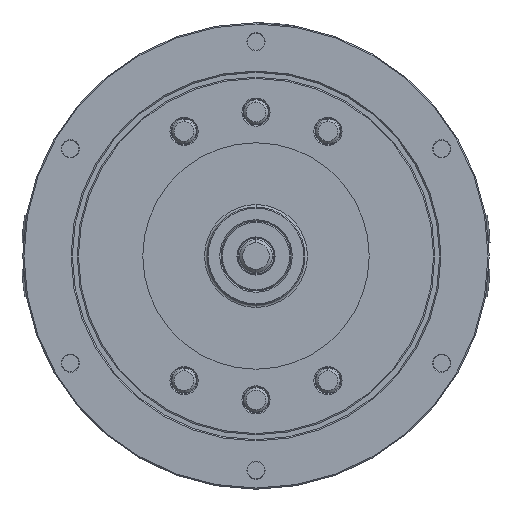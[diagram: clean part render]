
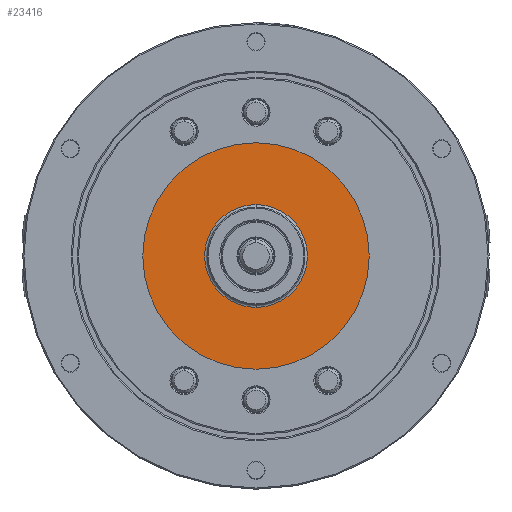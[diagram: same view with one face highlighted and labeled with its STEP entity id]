
A CAD part, left-side view. The second image highlights one B-rep face of the part: STEP entity #23416.
In plain terms, the highlighted planar face has unit normal (-1, 0, 0).
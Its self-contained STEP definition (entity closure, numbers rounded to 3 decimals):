
#1764 = ORIENTED_EDGE ( 'NONE', *, *, #11835, .F. ) ;
#1838 = AXIS2_PLACEMENT_3D ( 'NONE', #22253, #22196, #21883 ) ;
#2781 = ORIENTED_EDGE ( 'NONE', *, *, #10824, .T. ) ;
#5512 = VERTEX_POINT ( 'NONE', #23055 ) ;
#5815 = FACE_OUTER_BOUND ( 'NONE', #24104, .T. ) ;
#6533 = FACE_BOUND ( 'NONE', #22319, .T. ) ;
#7807 = VERTEX_POINT ( 'NONE', #40642 ) ;
#9026 = AXIS2_PLACEMENT_3D ( 'NONE', #23558, #23550, #23513 ) ;
#10013 = AXIS2_PLACEMENT_3D ( 'NONE', #33344, #33314, #33306 ) ;
#10824 = EDGE_CURVE ( 'NONE', #19423, #27439, #28293, .T. ) ;
#10987 = CIRCLE ( 'NONE', #15774, 92.5 ) ;
#11835 = EDGE_CURVE ( 'NONE', #5512, #7807, #20953, .T. ) ;
#12749 = AXIS2_PLACEMENT_3D ( 'NONE', #31917, #26599, #26760 ) ;
#15416 = ORIENTED_EDGE ( 'NONE', *, *, #16905, .T. ) ;
#15774 = AXIS2_PLACEMENT_3D ( 'NONE', #36601, #36495, #36345 ) ;
#16905 = EDGE_CURVE ( 'NONE', #27439, #19423, #25988, .T. ) ;
#17463 = CARTESIAN_POINT ( 'NONE',  ( -111.5, 0., -42. ) ) ;
#18404 = CARTESIAN_POINT ( 'NONE',  ( -111.5, 0., 42. ) ) ;
#19423 = VERTEX_POINT ( 'NONE', #17463 ) ;
#20953 = CIRCLE ( 'NONE', #9026, 92.5 ) ;
#21883 = DIRECTION ( 'NONE',  ( 0., 0., -1. ) ) ;
#22196 = DIRECTION ( 'NONE',  ( 1., 0., 0. ) ) ;
#22253 = CARTESIAN_POINT ( 'NONE',  ( -111.5, 0., 0. ) ) ;
#22319 = EDGE_LOOP ( 'NONE', ( #2781, #15416 ) ) ;
#23055 = CARTESIAN_POINT ( 'NONE',  ( -111.5, 92.5, 0. ) ) ;
#23416 = ADVANCED_FACE ( 'NONE', ( #6533, #5815 ), #32238, .T. ) ;
#23513 = DIRECTION ( 'NONE',  ( 0., 0., -1. ) ) ;
#23550 = DIRECTION ( 'NONE',  ( 1., 0., 0. ) ) ;
#23558 = CARTESIAN_POINT ( 'NONE',  ( -111.5, 0., 0. ) ) ;
#24104 = EDGE_LOOP ( 'NONE', ( #1764, #42798 ) ) ;
#25988 = CIRCLE ( 'NONE', #10013, 42. ) ;
#26599 = DIRECTION ( 'NONE',  ( -1., 0., 0. ) ) ;
#26760 = DIRECTION ( 'NONE',  ( 0., 0., 1. ) ) ;
#27439 = VERTEX_POINT ( 'NONE', #18404 ) ;
#28293 = CIRCLE ( 'NONE', #1838, 42. ) ;
#30300 = EDGE_CURVE ( 'NONE', #7807, #5512, #10987, .T. ) ;
#31917 = CARTESIAN_POINT ( 'NONE',  ( -111.5, 92.5, 0. ) ) ;
#32238 = PLANE ( 'NONE',  #12749 ) ;
#33306 = DIRECTION ( 'NONE',  ( 0., 0., -1. ) ) ;
#33314 = DIRECTION ( 'NONE',  ( 1., 0., 0. ) ) ;
#33344 = CARTESIAN_POINT ( 'NONE',  ( -111.5, 0., 0. ) ) ;
#36345 = DIRECTION ( 'NONE',  ( 0., 0., -1. ) ) ;
#36495 = DIRECTION ( 'NONE',  ( 1., 0., 0. ) ) ;
#36601 = CARTESIAN_POINT ( 'NONE',  ( -111.5, 0., 0. ) ) ;
#40642 = CARTESIAN_POINT ( 'NONE',  ( -111.5, -92.5, 0. ) ) ;
#42798 = ORIENTED_EDGE ( 'NONE', *, *, #30300, .F. ) ;
